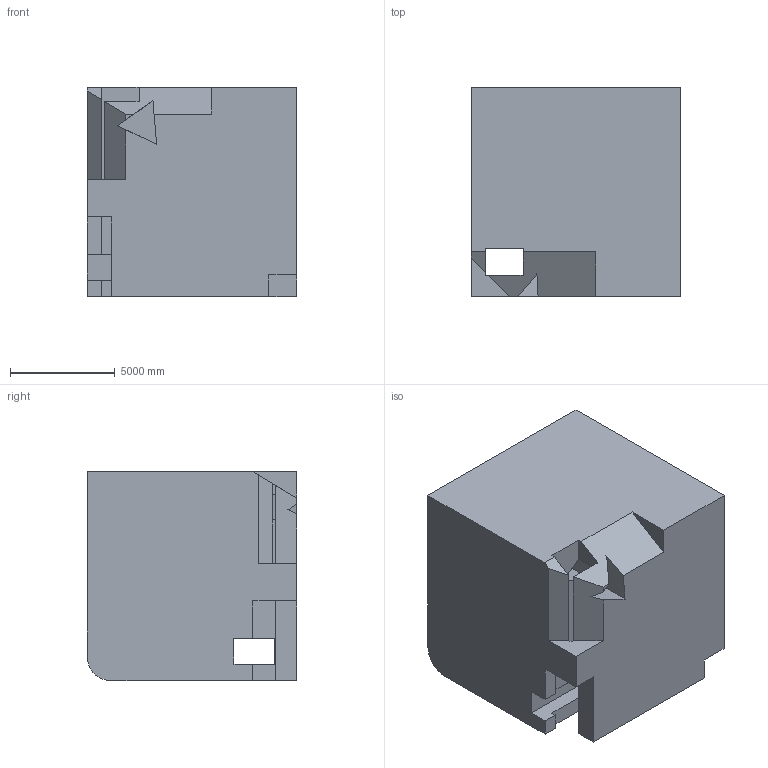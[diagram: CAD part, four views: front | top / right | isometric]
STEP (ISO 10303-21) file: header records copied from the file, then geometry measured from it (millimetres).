
FILE_DESCRIPTION (( 'STEP AP203' ), '1' );
FILE_NAME ('349.STEP', '2022-09-07T13:04:59', ( 'user' ), ( '' ), 'SwSTEP 2.0', 'SolidWorks 2021', '' );
FILE_SCHEMA (( 'CONFIG_CONTROL_DESIGN' ));
Length unit declared in the file: centimetre
Products named in the file (1): 349
Bounding box: 10000 x 10000 x 10000 mm (x, y, z)
Volume: 915338316743.6 mm3; surface area: 708461419.2 mm2
Topology: 1 solids, 1 shells, 37 faces, 123 edges, 82 vertices
Faces by surface type: plane 36, cylinder 1
Entity records: 1408 total; most frequent: ORIENTED_EDGE 246, CARTESIAN_POINT 243, DIRECTION 201, EDGE_CURVE 123, VECTOR 121, LINE 121, VERTEX_POINT 82, AXIS2_PLACEMENT_3D 40
